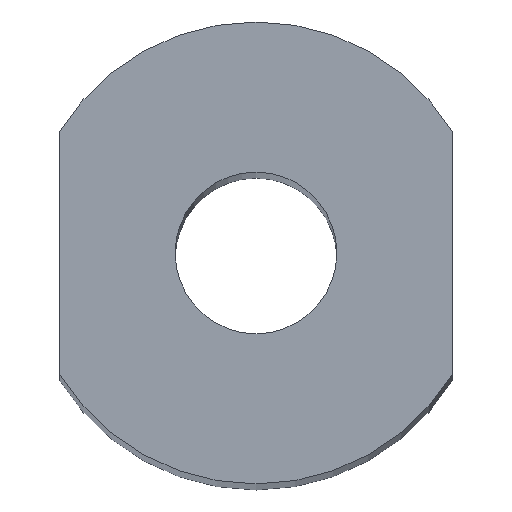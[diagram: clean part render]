
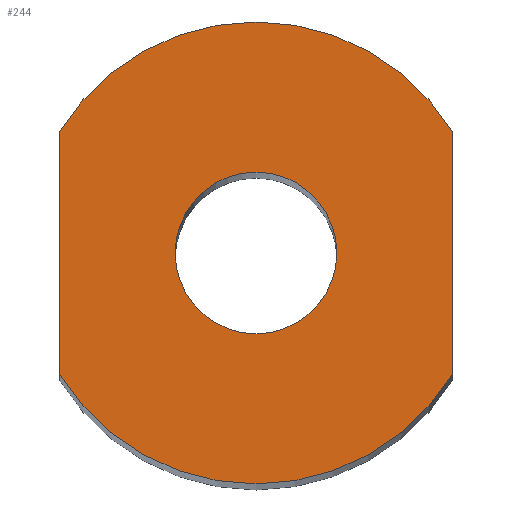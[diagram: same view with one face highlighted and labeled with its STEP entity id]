
A CAD part, top view. The second image highlights one B-rep face of the part: STEP entity #244.
In plain terms, the highlighted planar face has unit normal (0, 0, 1).
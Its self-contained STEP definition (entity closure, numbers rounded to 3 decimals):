
#1 = CARTESIAN_POINT ( 'NONE',  ( 749.2, 380.632, 150. ) ) ;
#8 = DIRECTION ( 'NONE',  ( 0., 0., -1. ) ) ;
#9 = EDGE_CURVE ( 'NONE', #34, #142, #153, .T. ) ;
#11 = DIRECTION ( 'NONE',  ( 1., 0., 0. ) ) ;
#15 = EDGE_CURVE ( 'NONE', #183, #51, #278, .T. ) ;
#18 = CARTESIAN_POINT ( 'NONE',  ( 757.7, 385.9, 150. ) ) ;
#24 = DIRECTION ( 'NONE',  ( 0., 0., -1. ) ) ;
#34 = VERTEX_POINT ( 'NONE', #147 ) ;
#39 = FACE_BOUND ( 'NONE', #224, .T. ) ;
#50 = ORIENTED_EDGE ( 'NONE', *, *, #15, .F. ) ;
#51 = VERTEX_POINT ( 'NONE', #266 ) ;
#52 = AXIS2_PLACEMENT_3D ( 'NONE', #105, #130, #146 ) ;
#60 = VERTEX_POINT ( 'NONE', #81 ) ;
#64 = DIRECTION ( 'NONE',  ( 0., -1., 0. ) ) ;
#69 = CARTESIAN_POINT ( 'NONE',  ( 766.2, 380.632, 150. ) ) ;
#75 = EDGE_CURVE ( 'NONE', #60, #183, #230, .T. ) ;
#76 = VECTOR ( 'NONE', #196, 1000. ) ;
#79 = AXIS2_PLACEMENT_3D ( 'NONE', #225, #8, #11 ) ;
#81 = CARTESIAN_POINT ( 'NONE',  ( 766.2, 391.168, 150. ) ) ;
#85 = ORIENTED_EDGE ( 'NONE', *, *, #261, .F. ) ;
#87 = AXIS2_PLACEMENT_3D ( 'NONE', #18, #273, #271 ) ;
#90 = EDGE_CURVE ( 'NONE', #162, #60, #161, .T. ) ;
#94 = CARTESIAN_POINT ( 'NONE',  ( 757.7, 385.9, 150. ) ) ;
#105 = CARTESIAN_POINT ( 'NONE',  ( 757.7, 385.9, 150. ) ) ;
#110 = EDGE_CURVE ( 'NONE', #142, #34, #158, .T. ) ;
#112 = DIRECTION ( 'NONE',  ( -1., 0., 0. ) ) ;
#120 = ORIENTED_EDGE ( 'NONE', *, *, #110, .T. ) ;
#121 = ORIENTED_EDGE ( 'NONE', *, *, #9, .T. ) ;
#130 = DIRECTION ( 'NONE',  ( 0., 0., -1. ) ) ;
#142 = VERTEX_POINT ( 'NONE', #172 ) ;
#146 = DIRECTION ( 'NONE',  ( -1., 0., 0. ) ) ;
#147 = CARTESIAN_POINT ( 'NONE',  ( 761.2, 385.9, 150. ) ) ;
#150 = CARTESIAN_POINT ( 'NONE',  ( 749.2, 391.168, 150. ) ) ;
#153 = CIRCLE ( 'NONE', #79, 3.5 ) ;
#158 = CIRCLE ( 'NONE', #87, 3.5 ) ;
#161 = CIRCLE ( 'NONE', #202, 10. ) ;
#162 = VERTEX_POINT ( 'NONE', #150 ) ;
#164 = AXIS2_PLACEMENT_3D ( 'NONE', #94, #24, #219 ) ;
#172 = CARTESIAN_POINT ( 'NONE',  ( 754.2, 385.9, 150. ) ) ;
#183 = VERTEX_POINT ( 'NONE', #69 ) ;
#189 = LINE ( 'NONE', #1, #76 ) ;
#193 = FACE_OUTER_BOUND ( 'NONE', #226, .T. ) ;
#194 = CARTESIAN_POINT ( 'NONE',  ( 766.2, 391.168, 150. ) ) ;
#196 = DIRECTION ( 'NONE',  ( 0., 1., 0. ) ) ;
#202 = AXIS2_PLACEMENT_3D ( 'NONE', #214, #249, #112 ) ;
#214 = CARTESIAN_POINT ( 'NONE',  ( 757.7, 385.9, 150. ) ) ;
#219 = DIRECTION ( 'NONE',  ( -1., 0., 0. ) ) ;
#222 = PLANE ( 'NONE',  #164 ) ;
#223 = VECTOR ( 'NONE', #64, 1000. ) ;
#224 = EDGE_LOOP ( 'NONE', ( #120, #121 ) ) ;
#225 = CARTESIAN_POINT ( 'NONE',  ( 757.7, 385.9, 150. ) ) ;
#226 = EDGE_LOOP ( 'NONE', ( #264, #85, #50, #238 ) ) ;
#230 = LINE ( 'NONE', #194, #223 ) ;
#238 = ORIENTED_EDGE ( 'NONE', *, *, #75, .F. ) ;
#244 = ADVANCED_FACE ( 'NONE', ( #39, #193 ), #222, .F. ) ;
#249 = DIRECTION ( 'NONE',  ( 0., 0., -1. ) ) ;
#261 = EDGE_CURVE ( 'NONE', #51, #162, #189, .T. ) ;
#264 = ORIENTED_EDGE ( 'NONE', *, *, #90, .F. ) ;
#266 = CARTESIAN_POINT ( 'NONE',  ( 749.2, 380.632, 150. ) ) ;
#271 = DIRECTION ( 'NONE',  ( 1., 0., 0. ) ) ;
#273 = DIRECTION ( 'NONE',  ( 0., 0., -1. ) ) ;
#278 = CIRCLE ( 'NONE', #52, 10. ) ;
